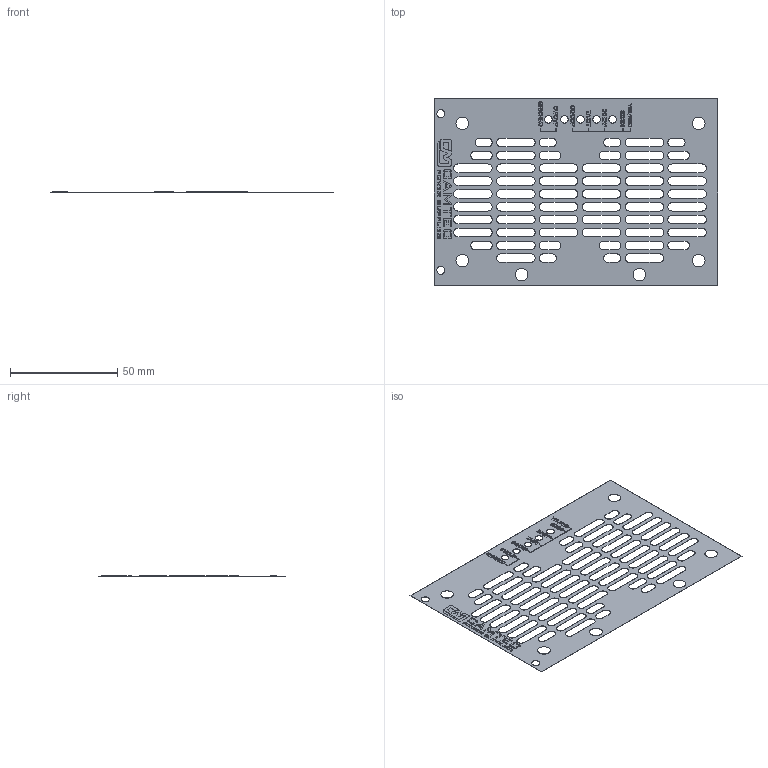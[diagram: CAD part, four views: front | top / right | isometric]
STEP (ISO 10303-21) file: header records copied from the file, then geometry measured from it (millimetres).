
FILE_DESCRIPTION(/* description */ ('Front Plate 3U Siebdruck','CAx-IF Rec.Pracs.---Representation and Presentation of Product Manufacturing Information (PMI)---4.0---2014-10-13'),/* implementation_level */ '2;1');
FILE_NAME(/* name */ 'E:\CAMTEC_2020_Pack and Go\Subrack_3U\2081100001CA.stp',/* time_stamp */ '2020-09-21T18:13:24+02:00',/* author */ ('rryba'),/* organization */ (''),/* preprocessor_version */ 'ST-DEVELOPER v18.1',/* originating_system */ 'Autodesk Inventor 2021',/* authorisation */ '');
FILE_SCHEMA (('AP242_MANAGED_MODEL_BASED_3D_ENGINEERING_MIM_LF { 1 0 10303 442 1 1 4 }'));
Length unit declared in the file: millimetre
Products named in the file (6): 2081100001CA; 2081100001; CAMTEC Logo 3D; Aufkleber_CAMTEC Logobild; Aufkleber_CAMTEC Wortbild1; Aufkleber_CAMTEC Wortbild2
Assembly tree (5 placements, depth 3):
  2081100001CA
    2081100001
    CAMTEC Logo 3D
      Aufkleber_CAMTEC Logobild
      Aufkleber_CAMTEC Wortbild1
      Aufkleber_CAMTEC Wortbild2
Bounding box: 132.2 x 87 x 0.2 mm (x, y, z)
Volume: 794.6 mm3; surface area: 16243.2 mm2
Topology: 65 solids, 65 shells, 1140 faces, 3335 edges, 2628 vertices
Faces by surface type: plane 778, bspline 217, cylinder 145
Full cylindrical faces by diameter (mm): 3.5 x5, 3.8 x2, 5.9 x6
Entity records: 39552 total; most frequent: CARTESIAN_POINT 9911, ORIENTED_EDGE 6060, DIRECTION 5024, EDGE_CURVE 3030, LINE 2306, VECTOR 2306, VERTEX_POINT 2020, AXIS2_PLACEMENT_3D 1359
